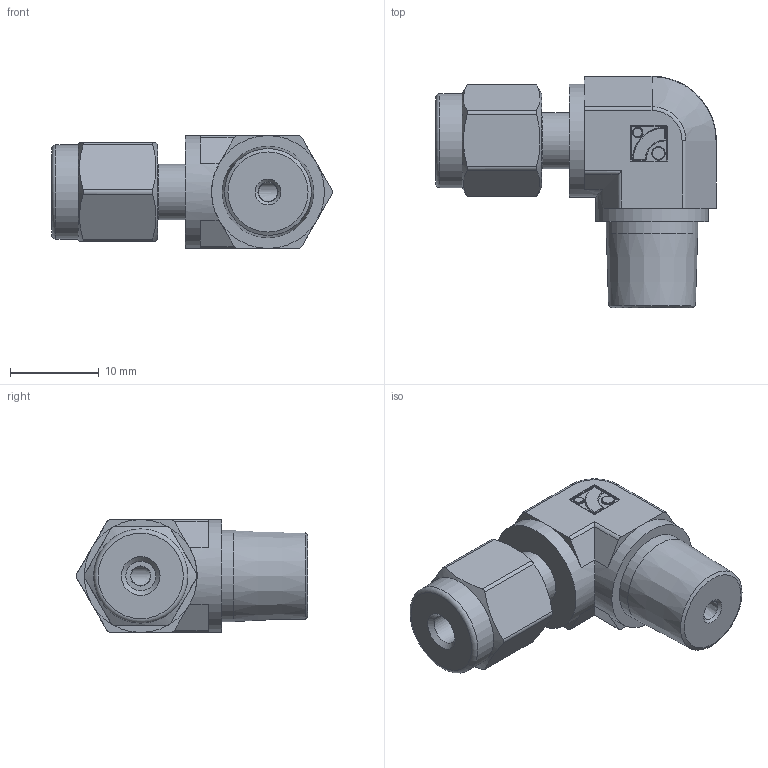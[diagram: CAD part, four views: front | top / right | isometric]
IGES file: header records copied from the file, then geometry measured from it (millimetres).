
Global section: file name: No Iges File Name specified; native system: Autodesk Inventor 2012; preprocessor: AutoDesk Inventor Iges Exporter R2012; author: 硅己绕,,1; organization: 1; date: 20150702.173820; units: millimetre
Bounding box: 31.61 x 26.05 x 12.7 mm (x, y, z)
Volume: 4273.8 mm3; surface area: 2295.7 mm2
Topology: 1 solids, 1 shells, 127 faces, 284 edges, 164 vertices
Faces by surface type: plane 42, cylinder 34, revolution 28, torus 12, cone 7, sphere 4
Full cylindrical faces by diameter (mm): 1.08 x1, 1.44 x1, 6.28 x1, 10.28 x1, 10.6 x1, 12.7 x2
